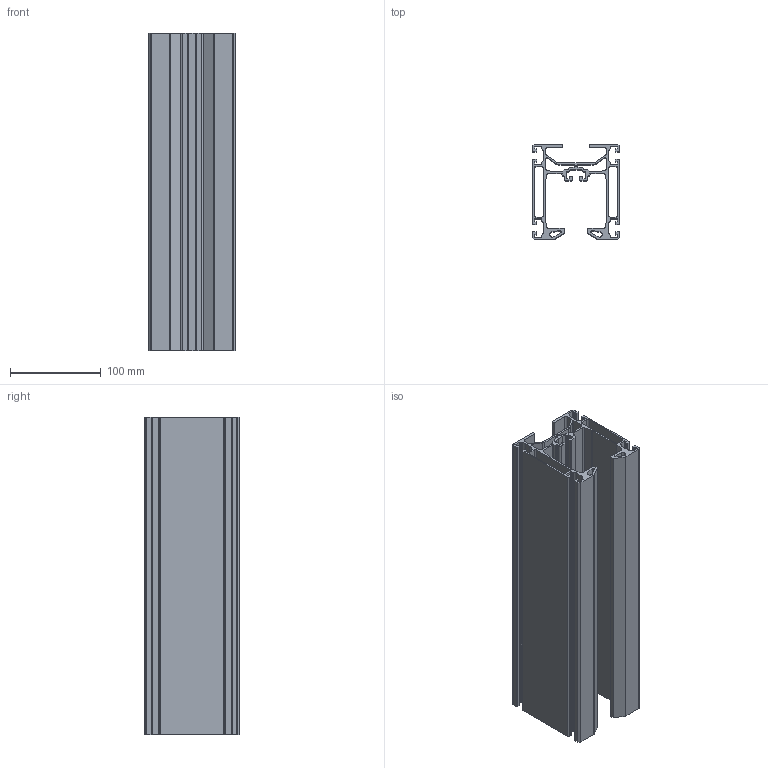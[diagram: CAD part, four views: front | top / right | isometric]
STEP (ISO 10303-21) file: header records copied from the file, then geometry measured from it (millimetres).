
FILE_DESCRIPTION (( 'STEP AP203' ), '1' );
FILE_NAME ('S-105.STEP', '2020-07-04T01:34:44', ( '' ), ( '' ), 'SwSTEP 2.0', 'SolidWorks 2017', '' );
FILE_SCHEMA (( 'CONFIG_CONTROL_DESIGN' ));
Length unit declared in the file: millimetre
Products named in the file (1): S-105
Bounding box: 96 x 105 x 350 mm (x, y, z)
Volume: 695470.7 mm3; surface area: 514734.9 mm2
Topology: 1 solids, 1 shells, 310 faces, 924 edges, 616 vertices
Faces by surface type: cylinder 158, plane 152
Entity records: 10605 total; most frequent: DIRECTION 1862, CARTESIAN_POINT 1851, ORIENTED_EDGE 1848, EDGE_CURVE 924, AXIS2_PLACEMENT_3D 627, VERTEX_POINT 616, VECTOR 608, LINE 608
